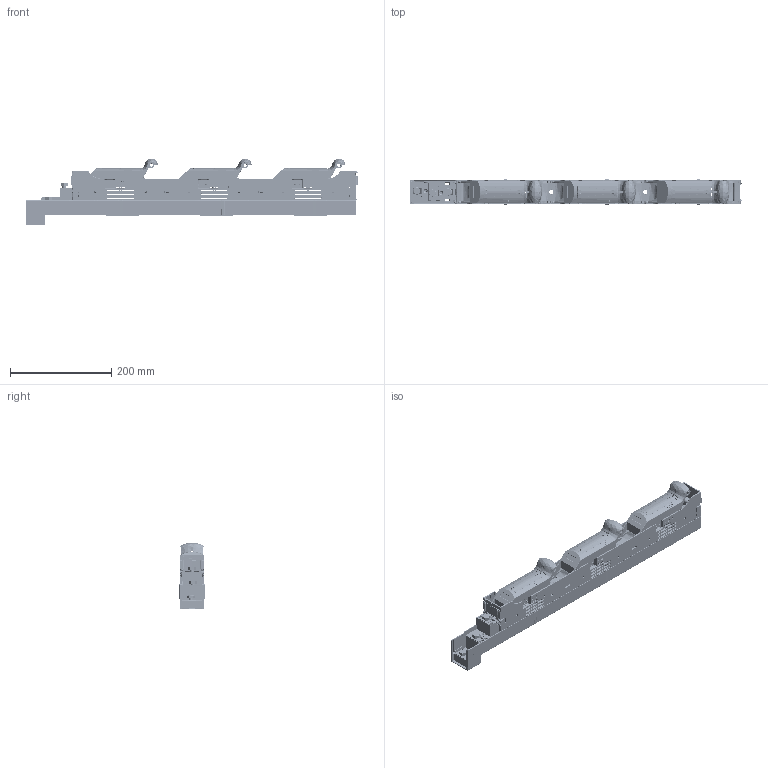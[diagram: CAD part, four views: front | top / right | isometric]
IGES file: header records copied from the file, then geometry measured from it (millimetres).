
Start section: SolidWorks IGES file using analytic representation for surfaces
Global section: file name: U:\14_RD\05_Technical_office\04_Office\Hrdinova\3D modely - IGES\Varius - FSD\FSD00-31D-F.IGS; native system: SolidWorks 2011; preprocessor: SolidWorks 2011; author: adhrja3; date: 170620.114517; units: millimetre
Bounding box: 654.93 x 49.8 x 132.12 mm (x, y, z)
Surface area: 639975.4 mm2 (no closed solid volume)
Topology: 0 solids, 0 shells, 9932 faces, 78714 edges, 78632 vertices
Faces by surface type: bspline 6236, revolution 3696
